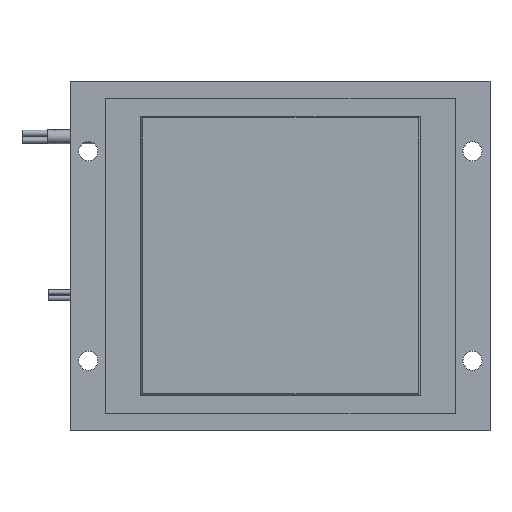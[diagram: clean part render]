
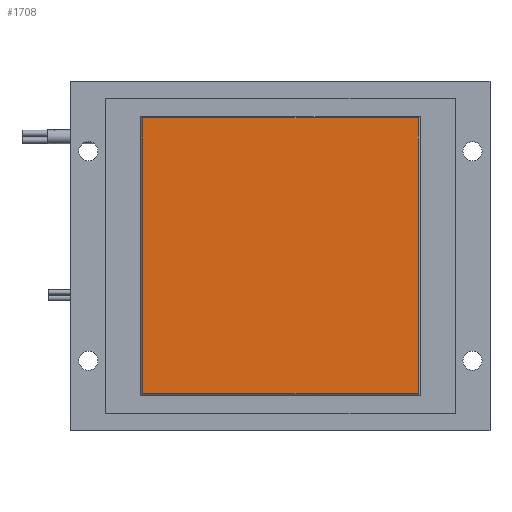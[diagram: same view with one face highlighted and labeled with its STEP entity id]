
A CAD part, top view. The second image highlights one B-rep face of the part: STEP entity #1708.
In plain terms, the highlighted planar face has unit normal (0, 0, 1).
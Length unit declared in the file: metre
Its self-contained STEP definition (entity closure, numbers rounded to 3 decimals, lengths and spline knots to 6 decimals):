
#1708=ADVANCED_FACE('0:818',(#3713),#3714,.T.);
#3713=FACE_OUTER_BOUND('',#6181,.T.);
#3714=PLANE('',#6182);
#6181=EDGE_LOOP('',(#10599,#10600,#10601,#10602));
#6182=AXIS2_PLACEMENT_3D('',#10603,#10604,#10605);
#10599=ORIENTED_EDGE('',*,*,#15030,.T.);
#10600=ORIENTED_EDGE('',*,*,#15017,.T.);
#10601=ORIENTED_EDGE('',*,*,#15021,.T.);
#10602=ORIENTED_EDGE('',*,*,#15031,.T.);
#10603=CARTESIAN_POINT('',(-0.0258,0.01,-0.066672));
#10604=DIRECTION('',(0.0,0.0,1.0));
#10605=DIRECTION('',(1.0,0.,0.0));
#15017=EDGE_CURVE('0:3502',#17871,#17868,#17872,.T.);
#15021=EDGE_CURVE('0:3508',#17868,#17877,#17878,.T.);
#15030=EDGE_CURVE('0:3520',#17891,#17871,#17892,.T.);
#15031=EDGE_CURVE('0:3514',#17877,#17891,#17893,.T.);
#17868=VERTEX_POINT('',#21992);
#17871=VERTEX_POINT('',#21996);
#17872=LINE('',#21997,#21998);
#17877=VERTEX_POINT('',#22005);
#17878=LINE('',#22006,#22007);
#17891=VERTEX_POINT('',#22026);
#17892=LINE('',#22027,#22028);
#17893=LINE('',#22029,#22030);
#21992=CARTESIAN_POINT('',(0.0537,0.0105,-0.066672));
#21996=CARTESIAN_POINT('',(-0.0253,0.0105,-0.066672));
#21997=CARTESIAN_POINT('',(-0.0258,0.0105,-0.066672));
#21998=VECTOR('',#26199,1.0);
#22005=CARTESIAN_POINT('',(0.0537,0.0895,-0.066672));
#22006=CARTESIAN_POINT('',(0.0537,0.01,-0.066672));
#22007=VECTOR('',#26202,1.0);
#22026=CARTESIAN_POINT('',(-0.0253,0.0895,-0.066672));
#22027=CARTESIAN_POINT('',(-0.0253,0.01,-0.066672));
#22028=VECTOR('',#26209,1.0);
#22029=CARTESIAN_POINT('',(-0.0258,0.0895,-0.066672));
#22030=VECTOR('',#26210,1.0);
#26199=DIRECTION('',(1.0,0.0,0.0));
#26202=DIRECTION('',(0.0,1.0,0.0));
#26209=DIRECTION('',(0.0,-1.0,0.0));
#26210=DIRECTION('',(-1.0,0.0,0.0));
